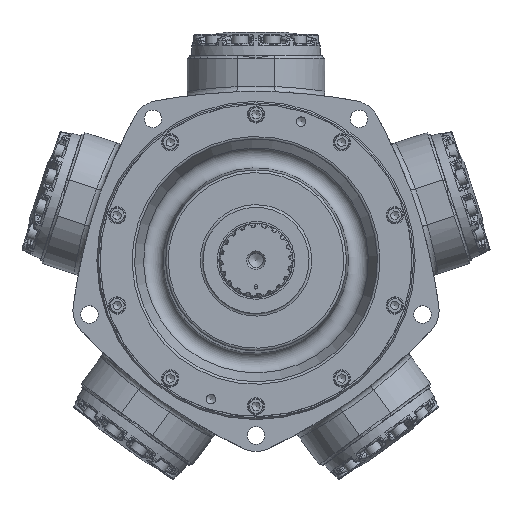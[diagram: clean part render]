
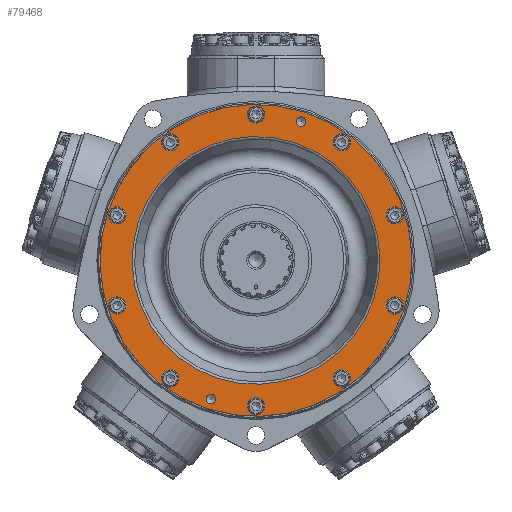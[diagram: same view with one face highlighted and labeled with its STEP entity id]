
A CAD part, top view. The second image highlights one B-rep face of the part: STEP entity #79468.
In plain terms, the highlighted planar face has unit normal (0, 0, 1).
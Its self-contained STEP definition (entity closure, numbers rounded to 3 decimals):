
#6848=FACE_BOUND('',#23115,.T.);
#6849=FACE_BOUND('',#23116,.T.);
#6850=FACE_BOUND('',#23117,.T.);
#6851=FACE_BOUND('',#23118,.T.);
#6852=FACE_BOUND('',#23119,.T.);
#6853=FACE_BOUND('',#23120,.T.);
#6854=FACE_BOUND('',#23121,.T.);
#6855=FACE_BOUND('',#23122,.T.);
#6856=FACE_BOUND('',#23123,.T.);
#6857=FACE_BOUND('',#23124,.T.);
#6858=FACE_BOUND('',#23125,.T.);
#6859=FACE_BOUND('',#23126,.T.);
#6860=FACE_BOUND('',#23127,.T.);
#15772=PLANE('',#84915);
#18067=FACE_OUTER_BOUND('',#23114,.T.);
#23114=EDGE_LOOP('',(#56549));
#23115=EDGE_LOOP('',(#56550));
#23116=EDGE_LOOP('',(#56551));
#23117=EDGE_LOOP('',(#56552));
#23118=EDGE_LOOP('',(#56553));
#23119=EDGE_LOOP('',(#56554));
#23120=EDGE_LOOP('',(#56555));
#23121=EDGE_LOOP('',(#56556));
#23122=EDGE_LOOP('',(#56557));
#23123=EDGE_LOOP('',(#56558));
#23124=EDGE_LOOP('',(#56559));
#23125=EDGE_LOOP('',(#56560));
#23126=EDGE_LOOP('',(#56561));
#23127=EDGE_LOOP('',(#56562));
#27651=CIRCLE('',#84896,148.273);
#27663=CIRCLE('',#84916,186.628);
#27664=CIRCLE('',#84917,5.664);
#27665=CIRCLE('',#84918,5.664);
#27666=CIRCLE('',#84919,10.319);
#27667=CIRCLE('',#84920,10.319);
#27668=CIRCLE('',#84921,10.319);
#27669=CIRCLE('',#84922,10.319);
#27670=CIRCLE('',#84923,10.319);
#27671=CIRCLE('',#84924,10.319);
#27672=CIRCLE('',#84925,10.319);
#27673=CIRCLE('',#84926,10.319);
#27674=CIRCLE('',#84927,10.319);
#27675=CIRCLE('',#84928,10.319);
#32777=VERTEX_POINT('',#147079);
#32787=VERTEX_POINT('',#147113);
#32788=VERTEX_POINT('',#147115);
#32789=VERTEX_POINT('',#147117);
#32790=VERTEX_POINT('',#147119);
#32791=VERTEX_POINT('',#147121);
#32792=VERTEX_POINT('',#147123);
#32793=VERTEX_POINT('',#147125);
#32794=VERTEX_POINT('',#147127);
#32795=VERTEX_POINT('',#147129);
#32796=VERTEX_POINT('',#147131);
#32797=VERTEX_POINT('',#147133);
#32798=VERTEX_POINT('',#147135);
#32799=VERTEX_POINT('',#147137);
#41234=EDGE_CURVE('',#32777,#32777,#27651,.T.);
#41249=EDGE_CURVE('',#32787,#32787,#27663,.T.);
#41250=EDGE_CURVE('',#32788,#32788,#27664,.T.);
#41251=EDGE_CURVE('',#32789,#32789,#27665,.T.);
#41252=EDGE_CURVE('',#32790,#32790,#27666,.T.);
#41253=EDGE_CURVE('',#32791,#32791,#27667,.T.);
#41254=EDGE_CURVE('',#32792,#32792,#27668,.T.);
#41255=EDGE_CURVE('',#32793,#32793,#27669,.T.);
#41256=EDGE_CURVE('',#32794,#32794,#27670,.T.);
#41257=EDGE_CURVE('',#32795,#32795,#27671,.T.);
#41258=EDGE_CURVE('',#32796,#32796,#27672,.T.);
#41259=EDGE_CURVE('',#32797,#32797,#27673,.T.);
#41260=EDGE_CURVE('',#32798,#32798,#27674,.T.);
#41261=EDGE_CURVE('',#32799,#32799,#27675,.T.);
#56549=ORIENTED_EDGE('',*,*,#41249,.T.);
#56550=ORIENTED_EDGE('',*,*,#41250,.T.);
#56551=ORIENTED_EDGE('',*,*,#41251,.T.);
#56552=ORIENTED_EDGE('',*,*,#41252,.T.);
#56553=ORIENTED_EDGE('',*,*,#41253,.T.);
#56554=ORIENTED_EDGE('',*,*,#41254,.T.);
#56555=ORIENTED_EDGE('',*,*,#41255,.T.);
#56556=ORIENTED_EDGE('',*,*,#41256,.T.);
#56557=ORIENTED_EDGE('',*,*,#41257,.T.);
#56558=ORIENTED_EDGE('',*,*,#41258,.T.);
#56559=ORIENTED_EDGE('',*,*,#41259,.T.);
#56560=ORIENTED_EDGE('',*,*,#41260,.T.);
#56561=ORIENTED_EDGE('',*,*,#41261,.T.);
#56562=ORIENTED_EDGE('',*,*,#41234,.F.);
#79468=ADVANCED_FACE('',(#18067,#6848,#6849,#6850,#6851,#6852,#6853,#6854,
#6855,#6856,#6857,#6858,#6859,#6860),#15772,.T.);
#84896=AXIS2_PLACEMENT_3D('',#147081,#94838,#94839);
#84915=AXIS2_PLACEMENT_3D('',#147112,#94879,#94880);
#84916=AXIS2_PLACEMENT_3D('',#147114,#94881,#94882);
#84917=AXIS2_PLACEMENT_3D('',#147116,#94883,#94884);
#84918=AXIS2_PLACEMENT_3D('',#147118,#94885,#94886);
#84919=AXIS2_PLACEMENT_3D('',#147120,#94887,#94888);
#84920=AXIS2_PLACEMENT_3D('',#147122,#94889,#94890);
#84921=AXIS2_PLACEMENT_3D('',#147124,#94891,#94892);
#84922=AXIS2_PLACEMENT_3D('',#147126,#94893,#94894);
#84923=AXIS2_PLACEMENT_3D('',#147128,#94895,#94896);
#84924=AXIS2_PLACEMENT_3D('',#147130,#94897,#94898);
#84925=AXIS2_PLACEMENT_3D('',#147132,#94899,#94900);
#84926=AXIS2_PLACEMENT_3D('',#147134,#94901,#94902);
#84927=AXIS2_PLACEMENT_3D('',#147136,#94903,#94904);
#84928=AXIS2_PLACEMENT_3D('',#147138,#94905,#94906);
#94838=DIRECTION('center_axis',(0.,0.,
1.));
#94839=DIRECTION('ref_axis',(-0.309,-0.951,0.));
#94879=DIRECTION('center_axis',(0.,0.,
1.));
#94880=DIRECTION('ref_axis',(0.951,-0.309,0.));
#94881=DIRECTION('center_axis',(0.,0.,
1.));
#94882=DIRECTION('ref_axis',(0.309,0.951,0.));
#94883=DIRECTION('center_axis',(0.,0.,
-1.));
#94884=DIRECTION('ref_axis',(0.951,-0.309,0.));
#94885=DIRECTION('center_axis',(0.,0.,
-1.));
#94886=DIRECTION('ref_axis',(0.951,-0.309,0.));
#94887=DIRECTION('center_axis',(0.,0.,
-1.));
#94888=DIRECTION('ref_axis',(-0.588,0.809,0.));
#94889=DIRECTION('center_axis',(0.,0.,
-1.));
#94890=DIRECTION('ref_axis',(0.,1.,0.));
#94891=DIRECTION('center_axis',(0.,0.,
-1.));
#94892=DIRECTION('ref_axis',(0.588,0.809,0.));
#94893=DIRECTION('center_axis',(0.,0.,
-1.));
#94894=DIRECTION('ref_axis',(0.951,0.309,0.));
#94895=DIRECTION('center_axis',(0.,0.,
-1.));
#94896=DIRECTION('ref_axis',(0.951,-0.309,0.));
#94897=DIRECTION('center_axis',(0.,0.,
-1.));
#94898=DIRECTION('ref_axis',(0.588,-0.809,0.));
#94899=DIRECTION('center_axis',(0.,0.,
-1.));
#94900=DIRECTION('ref_axis',(0.,-1.,0.));
#94901=DIRECTION('center_axis',(0.,0.,
-1.));
#94902=DIRECTION('ref_axis',(-0.588,-0.809,0.));
#94903=DIRECTION('center_axis',(0.,0.,
-1.));
#94904=DIRECTION('ref_axis',(-0.951,-0.309,0.));
#94905=DIRECTION('center_axis',(0.,0.,
-1.));
#94906=DIRECTION('ref_axis',(-0.951,0.309,0.));
#147079=CARTESIAN_POINT('',(-141.016,45.819,119.254));
#147081=CARTESIAN_POINT('Origin',(0.,0.,
119.254));
#147112=CARTESIAN_POINT('Origin',(52.49,161.549,119.254));
#147113=CARTESIAN_POINT('',(-57.671,-177.493,119.254));
#147114=CARTESIAN_POINT('Origin',(0.,0.,
119.254));
#147115=CARTESIAN_POINT('',(48.575,167.829,119.254));
#147116=CARTESIAN_POINT('Origin',(53.962,166.078,119.254));
#147117=CARTESIAN_POINT('',(-59.349,-164.328,119.254));
#147118=CARTESIAN_POINT('Origin',(-53.962,-166.078,119.254));
#147119=CARTESIAN_POINT('',(108.707,-149.623,119.254));
#147120=CARTESIAN_POINT('Origin',(102.642,-141.275,119.254));
#147121=CARTESIAN_POINT('',(0.,-184.944,119.254));
#147122=CARTESIAN_POINT('Origin',(0.,-174.625,119.254));
#147123=CARTESIAN_POINT('',(-108.707,-149.623,119.254));
#147124=CARTESIAN_POINT('Origin',(-102.642,-141.275,119.254));
#147125=CARTESIAN_POINT('',(-175.892,-57.151,119.254));
#147126=CARTESIAN_POINT('Origin',(-166.078,-53.962,119.254));
#147127=CARTESIAN_POINT('',(-175.892,57.151,119.254));
#147128=CARTESIAN_POINT('Origin',(-166.078,53.962,119.254));
#147129=CARTESIAN_POINT('',(-108.707,149.623,119.254));
#147130=CARTESIAN_POINT('Origin',(-102.642,141.275,119.254));
#147131=CARTESIAN_POINT('',(0.,184.944,119.254));
#147132=CARTESIAN_POINT('Origin',(0.,174.625,119.254));
#147133=CARTESIAN_POINT('',(108.707,149.623,119.254));
#147134=CARTESIAN_POINT('Origin',(102.642,141.275,119.254));
#147135=CARTESIAN_POINT('',(175.892,57.151,119.254));
#147136=CARTESIAN_POINT('Origin',(166.078,53.962,119.254));
#147137=CARTESIAN_POINT('',(175.892,-57.151,119.254));
#147138=CARTESIAN_POINT('Origin',(166.078,-53.962,119.254));
